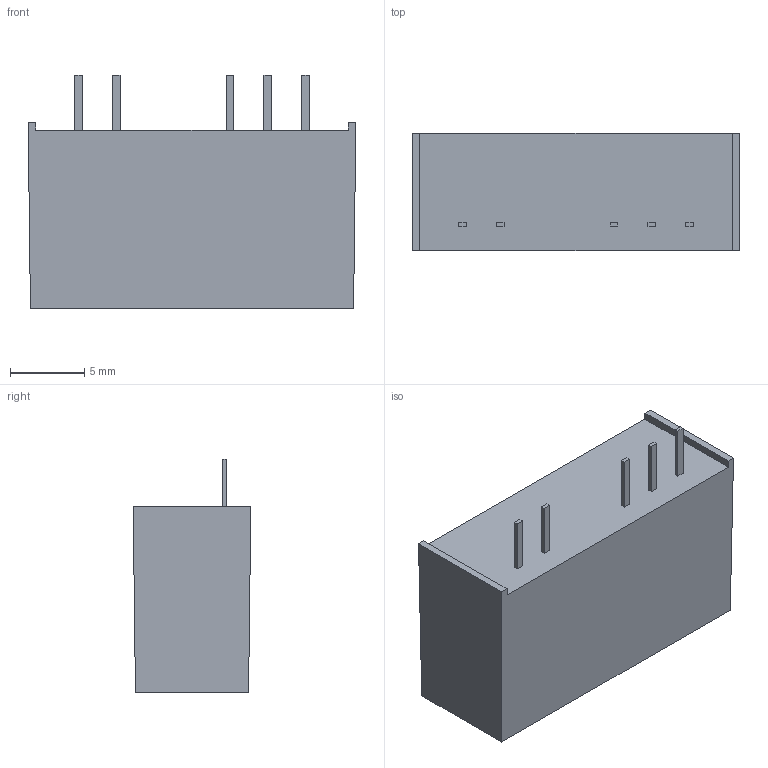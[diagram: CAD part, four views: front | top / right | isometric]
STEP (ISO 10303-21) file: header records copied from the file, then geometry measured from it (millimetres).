
FILE_DESCRIPTION(/* description */ (''),/* implementation_level */ '2;1');
FILE_NAME(/* name */ 'C:\Users\CALLIOPE\Documents\Inventor\mau100.200\3D\X2\5C3A5BF8591689C0\X0\\型錄用-STEP檔\MAU400.stp',/* time_stamp */ '2015-03-13T08:30:11+08:00',/* author */ ('CALLIOPE'),/* organization */ (''),/* preprocessor_version */ 'ST-DEVELOPER v15.6',/* originating_system */ 'Autodesk Inventor 2015',/* authorisation */ '');
FILE_SCHEMA (('AUTOMOTIVE_DESIGN { 1 0 10303 214 3 1 1 }'));
Length unit declared in the file: millimetre
Products named in the file (1): MAU400
Bounding box: 22 x 7.9 x 15.7 mm (x, y, z)
Volume: 2035.3 mm3; surface area: 1092.8 mm2
Topology: 1 solids, 1 shells, 35 faces, 84 edges, 56 vertices
Faces by surface type: plane 35
Entity records: 1022 total; most frequent: CARTESIAN_POINT 176, ORIENTED_EDGE 168, DIRECTION 156, LINE 84, VECTOR 84, EDGE_CURVE 84, VERTEX_POINT 56, EDGE_LOOP 40
